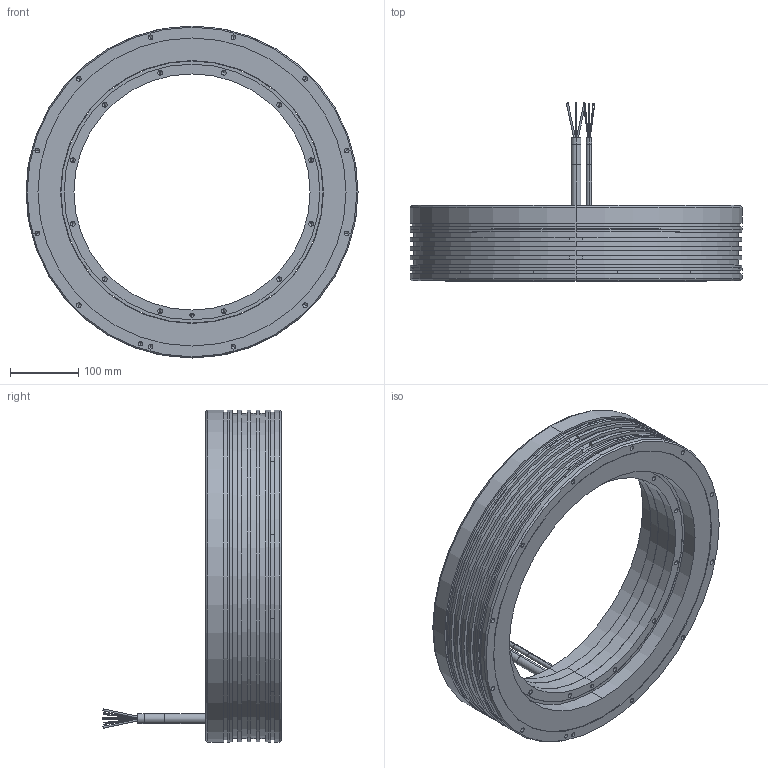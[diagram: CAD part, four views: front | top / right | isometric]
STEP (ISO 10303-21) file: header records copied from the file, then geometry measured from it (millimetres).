
FILE_DESCRIPTION (( 'STEP AP203' ), '1' );
FILE_NAME ('TM-2-D5.STEP', '2023-08-03T03:08:14', ( '' ), ( '' ), 'SwSTEP 2.0', 'SolidWorks 2015', '' );
FILE_SCHEMA (( 'CONFIG_CONTROL_DESIGN' ));
Length unit declared in the file: millimetre
Products named in the file (3): TM-2-DX_stator_TM-2-D5_stator; TM-2-D5; TM-2-DX_rotor_TM-2-D5_rotor
Assembly tree (2 placements, depth 2):
  TM-2-D5
    TM-2-DX_stator_TM-2-D5_stator
    TM-2-DX_rotor_TM-2-D5_rotor
Bounding box: 485 x 260.29 x 485 mm (x, y, z)
Volume: 8265653.2 mm3; surface area: 698992.9 mm2
Topology: 2 solids, 2 shells, 350 faces, 822 edges, 452 vertices
Faces by surface type: cylinder 189, cone 112, plane 49
Entity records: 9635 total; most frequent: DIRECTION 1754, CARTESIAN_POINT 1667, ORIENTED_EDGE 1436, EDGE_CURVE 718, AXIS2_PLACEMENT_3D 709, VERTEX_POINT 452, EDGE_LOOP 436, CIRCLE 354
